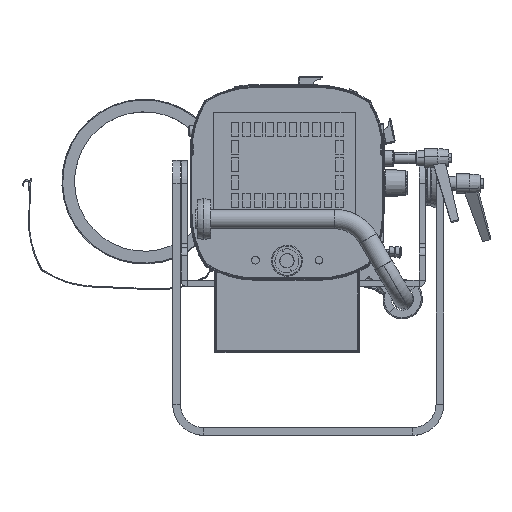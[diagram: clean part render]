
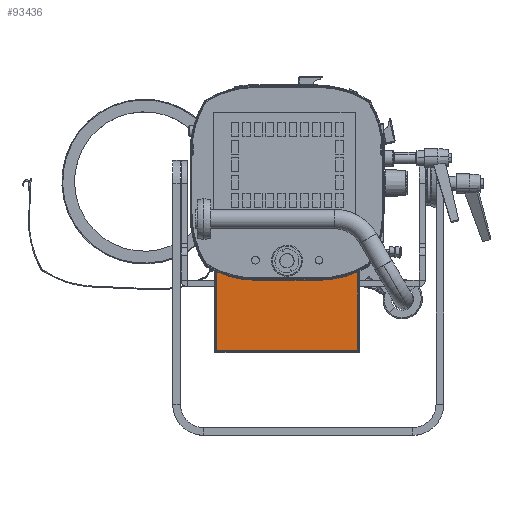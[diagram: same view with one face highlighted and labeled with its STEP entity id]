
A CAD part, top view. The second image highlights one B-rep face of the part: STEP entity #93436.
In plain terms, the highlighted planar face has unit normal (0, 0, 1).
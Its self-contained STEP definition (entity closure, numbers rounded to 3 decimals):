
#1711 = AXIS2_PLACEMENT_3D ( 'NONE', #52248, #106455, #105688 ) ;
#2613 = EDGE_CURVE ( 'NONE', #52364, #72554, #113282, .T. ) ;
#6045 = AXIS2_PLACEMENT_3D ( 'NONE', #34894, #26533, #71313 ) ;
#8734 = ORIENTED_EDGE ( 'NONE', *, *, #72728, .F. ) ;
#11248 = VECTOR ( 'NONE', #59861, 1000. ) ;
#12538 = CIRCLE ( 'NONE', #97610, 124.2 ) ;
#16078 = VERTEX_POINT ( 'NONE', #28446 ) ;
#16714 = EDGE_LOOP ( 'NONE', ( #107065, #116744, #8734, #99142, #17776, #77457 ) ) ;
#17776 = ORIENTED_EDGE ( 'NONE', *, *, #2613, .T. ) ;
#22265 = CARTESIAN_POINT ( 'NONE',  ( -36., -134.83, 235.2 ) ) ;
#23054 = CARTESIAN_POINT ( 'NONE',  ( 95., -225.43, 235.2 ) ) ;
#26533 = DIRECTION ( 'NONE',  ( 0., 0., 1. ) ) ;
#27533 = CARTESIAN_POINT ( 'NONE',  ( -87., -225.43, 235.2 ) ) ;
#28446 = CARTESIAN_POINT ( 'NONE',  ( -87., -123.88, 235.2 ) ) ;
#29248 = LINE ( 'NONE', #22265, #34974 ) ;
#30247 = FACE_OUTER_BOUND ( 'NONE', #16714, .T. ) ;
#32595 = VECTOR ( 'NONE', #99979, 1000. ) ;
#34894 = CARTESIAN_POINT ( 'NONE',  ( -36.009, -10.63, 235.2 ) ) ;
#34974 = VECTOR ( 'NONE', #48772, 1000. ) ;
#37580 = CARTESIAN_POINT ( 'NONE',  ( -36., -134.83, 235.2 ) ) ;
#39443 = EDGE_CURVE ( 'NONE', #52364, #16078, #50780, .T. ) ;
#41118 = CARTESIAN_POINT ( 'NONE',  ( -87., -225.43, 235.2 ) ) ;
#48294 = VERTEX_POINT ( 'NONE', #65429 ) ;
#48480 = DIRECTION ( 'NONE',  ( 0., 0., 1. ) ) ;
#48772 = DIRECTION ( 'NONE',  ( 1., 0., 0. ) ) ;
#50601 = EDGE_CURVE ( 'NONE', #72554, #48294, #79135, .T. ) ;
#50780 = LINE ( 'NONE', #51877, #111610 ) ;
#51499 = DIRECTION ( 'NONE',  ( 0., 1., 0. ) ) ;
#51744 = EDGE_CURVE ( 'NONE', #100164, #91832, #29248, .T. ) ;
#51877 = CARTESIAN_POINT ( 'NONE',  ( -87., -225.43, 235.2 ) ) ;
#52248 = CARTESIAN_POINT ( 'NONE',  ( -87., -225.43, 235.2 ) ) ;
#52364 = VERTEX_POINT ( 'NONE', #41118 ) ;
#59861 = DIRECTION ( 'NONE',  ( 0., 1., 0. ) ) ;
#62153 = EDGE_CURVE ( 'NONE', #91832, #48294, #12538, .T. ) ;
#65429 = CARTESIAN_POINT ( 'NONE',  ( 95., -123.88, 235.2 ) ) ;
#66222 = CIRCLE ( 'NONE', #6045, 124.2 ) ;
#67069 = CARTESIAN_POINT ( 'NONE',  ( 44., -134.83, 235.2 ) ) ;
#71313 = DIRECTION ( 'NONE',  ( 1., 0., 0. ) ) ;
#72554 = VERTEX_POINT ( 'NONE', #23054 ) ;
#72728 = EDGE_CURVE ( 'NONE', #16078, #100164, #66222, .T. ) ;
#74226 = DIRECTION ( 'NONE',  ( -1., 0., 0. ) ) ;
#77457 = ORIENTED_EDGE ( 'NONE', *, *, #50601, .T. ) ;
#79135 = LINE ( 'NONE', #114050, #11248 ) ;
#80351 = PLANE ( 'NONE',  #1711 ) ;
#83347 = CARTESIAN_POINT ( 'NONE',  ( 44.009, -10.63, 235.2 ) ) ;
#91832 = VERTEX_POINT ( 'NONE', #67069 ) ;
#93436 = ADVANCED_FACE ( 'NONE', ( #30247 ), #80351, .F. ) ;
#97610 = AXIS2_PLACEMENT_3D ( 'NONE', #83347, #48480, #74226 ) ;
#99142 = ORIENTED_EDGE ( 'NONE', *, *, #39443, .F. ) ;
#99979 = DIRECTION ( 'NONE',  ( 1., 0., 0. ) ) ;
#100164 = VERTEX_POINT ( 'NONE', #37580 ) ;
#105688 = DIRECTION ( 'NONE',  ( -1., 0., 0. ) ) ;
#106455 = DIRECTION ( 'NONE',  ( 0., 0., -1. ) ) ;
#107065 = ORIENTED_EDGE ( 'NONE', *, *, #62153, .F. ) ;
#111610 = VECTOR ( 'NONE', #51499, 1000. ) ;
#113282 = LINE ( 'NONE', #27533, #32595 ) ;
#114050 = CARTESIAN_POINT ( 'NONE',  ( 95., -225.43, 235.2 ) ) ;
#116744 = ORIENTED_EDGE ( 'NONE', *, *, #51744, .F. ) ;
